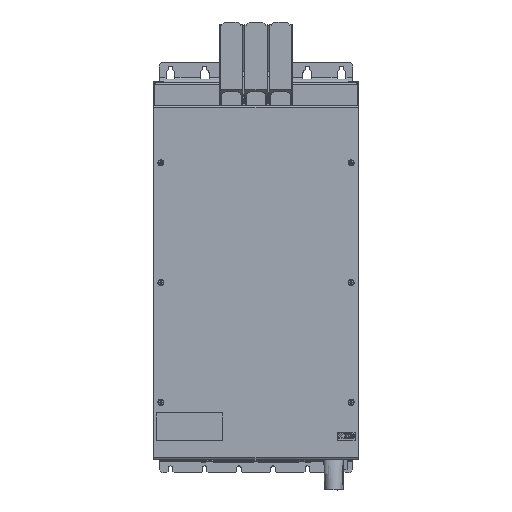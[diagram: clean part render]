
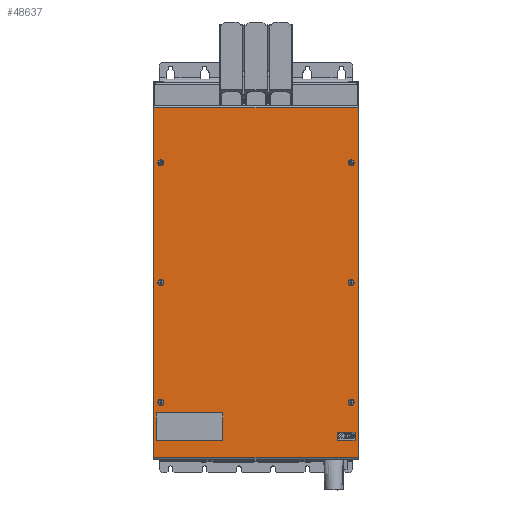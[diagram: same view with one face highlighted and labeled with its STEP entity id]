
A CAD part, top view. The second image highlights one B-rep face of the part: STEP entity #48637.
In plain terms, the highlighted planar face has unit normal (0, 0, 1).
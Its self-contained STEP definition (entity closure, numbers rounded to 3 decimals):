
#87 = VECTOR ( 'NONE', #115, 1000. ) ;
#115 = DIRECTION ( 'NONE',  ( 1., 0., 0. ) ) ;
#35171 = VERTEX_POINT ( 'NONE', #39774 ) ;
#39774 = CARTESIAN_POINT ( 'NONE',  ( 0., -67., 264.5 ) ) ;
#48264 = VERTEX_POINT ( 'NONE', #53695 ) ;
#48268 = EDGE_CURVE ( 'NONE', #48318, #48264, #53693, .T. ) ;
#48292 = EDGE_CURVE ( 'NONE', #35171, #48387, #53736, .T. ) ;
#48318 = VERTEX_POINT ( 'NONE', #53882 ) ;
#48387 = VERTEX_POINT ( 'NONE', #53802 ) ;
#48564 = EDGE_LOOP ( 'NONE', ( #48566, #48568, #48683, #48685 ) ) ;
#48566 = ORIENTED_EDGE ( 'NONE', *, *, #48268, .T. ) ;
#48568 = ORIENTED_EDGE ( 'NONE', *, *, #48570, .T. ) ;
#48570 = EDGE_CURVE ( 'NONE', #48264, #35171, #54269, .T. ) ;
#48637 = ADVANCED_FACE ( 'NONE', ( #54254 ), #54367, .T. ) ;
#48683 = ORIENTED_EDGE ( 'NONE', *, *, #48292, .T. ) ;
#48685 = ORIENTED_EDGE ( 'NONE', *, *, #48686, .T. ) ;
#48686 = EDGE_CURVE ( 'NONE', #48387, #48318, #54541, .T. ) ;
#53690 = DIRECTION ( 'NONE',  ( 0., 1., 0. ) ) ;
#53691 = VECTOR ( 'NONE', #53690, 1000. ) ;
#53692 = CARTESIAN_POINT ( 'NONE',  ( 299., -578.5, 264.5 ) ) ;
#53693 = LINE ( 'NONE', #53692, #53691 ) ;
#53695 = CARTESIAN_POINT ( 'NONE',  ( 299., -67., 264.5 ) ) ;
#53728 = DIRECTION ( 'NONE',  ( 0., -1., 0. ) ) ;
#53729 = VECTOR ( 'NONE', #53728, 1000. ) ;
#53730 = CARTESIAN_POINT ( 'NONE',  ( 0., -578.5, 264.5 ) ) ;
#53736 = LINE ( 'NONE', #53730, #53729 ) ;
#53802 = CARTESIAN_POINT ( 'NONE',  ( 0., -578.5, 264.5 ) ) ;
#53882 = CARTESIAN_POINT ( 'NONE',  ( 299., -578.5, 264.5 ) ) ;
#54254 = FACE_OUTER_BOUND ( 'NONE', #48564, .T. ) ;
#54269 = LINE ( 'NONE', #54453, #54410 ) ;
#54367 = PLANE ( 'NONE',  #54493 ) ;
#54408 = DIRECTION ( 'NONE',  ( -1., 0., 0. ) ) ;
#54410 = VECTOR ( 'NONE', #54408, 1000. ) ;
#54453 = CARTESIAN_POINT ( 'NONE',  ( 299., -67., 264.5 ) ) ;
#54488 = DIRECTION ( 'NONE',  ( 0., -1., 0. ) ) ;
#54490 = DIRECTION ( 'NONE',  ( 0., 0., 1. ) ) ;
#54492 = CARTESIAN_POINT ( 'NONE',  ( 299., -578.5, 264.5 ) ) ;
#54493 = AXIS2_PLACEMENT_3D ( 'NONE', #54492, #54490, #54488 ) ;
#54541 = LINE ( 'NONE', #54551, #87 ) ;
#54551 = CARTESIAN_POINT ( 'NONE',  ( 299., -578.5, 264.5 ) ) ;
